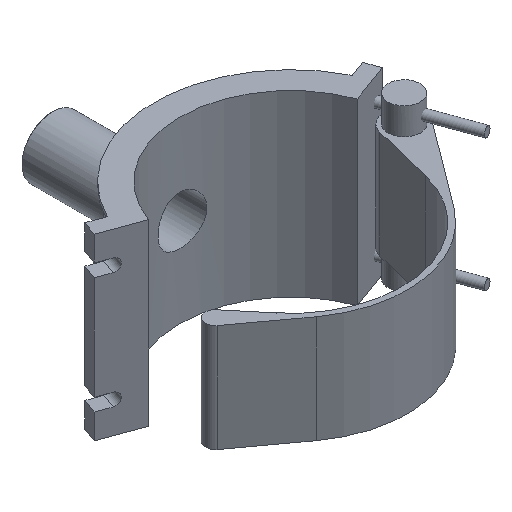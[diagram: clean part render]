
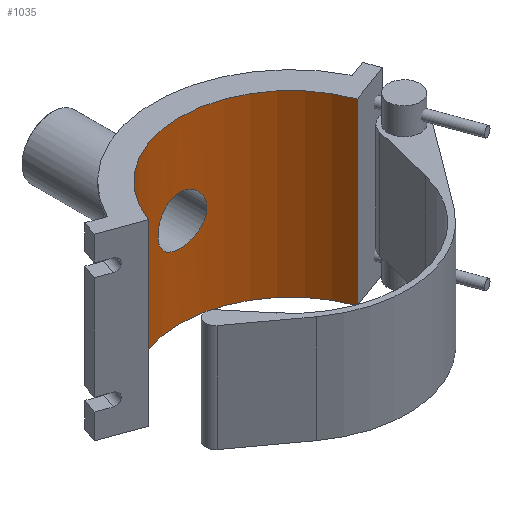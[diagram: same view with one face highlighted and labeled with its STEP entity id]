
A CAD part, isometric view. The second image highlights one B-rep face of the part: STEP entity #1035.
In plain terms, the highlighted cylindrical face has radius 109.35 mm (diameter 218.7 mm), a partial arc.
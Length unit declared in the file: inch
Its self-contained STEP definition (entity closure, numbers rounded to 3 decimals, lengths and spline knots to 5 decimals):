
#28=FACE_BOUND('',#177,.T.);
#45=B_SPLINE_CURVE_WITH_KNOTS('',3,(#1814,#1815,#1816,#1817,#1818,#1819,
#1820,#1821,#1822,#1823,#1824,#1825,#1826,#1827,#1828,#1829,#1830,#1831,
#1832,#1833,#1834,#1835,#1836,#1837,#1838,#1839,#1840,#1841,#1842,#1843,
#1844,#1845,#1846,#1847,#1848,#1849,#1850,#1851,#1852,#1853,#1854,#1855,
#1856,#1857,#1858,#1859,#1860,#1861,#1862,#1863,#1864,#1865,#1866,#1867,
#1868,#1869,#1870,#1871,#1872,#1873,#1874,#1875,#1876,#1877,#1878,#1879),
 .UNSPECIFIED.,.T.,.F.,(4,2,2,2,2,2,2,2,2,2,2,2,2,2,2,2,2,2,2,2,2,2,2,2,
2,2,2,2,2,2,2,2,4),(0.,0.4544,0.90879,1.36319,
1.81759,2.27195,2.72631,3.18067,3.63503,
4.08939,4.54375,4.99811,5.45247,5.90687,
6.36126,6.81566,7.27006,7.72446,8.17885,
8.63325,9.08765,9.54201,9.99637,10.45073,
10.90509,11.35945,11.81381,12.26817,12.72253,
13.17693,13.63132,14.08572,14.54012),
 .UNSPECIFIED.);
#108=FACE_OUTER_BOUND('',#176,.T.);
#176=EDGE_LOOP('',(#818,#819,#820,#821));
#177=EDGE_LOOP('',(#822));
#274=LINE('',#1800,#354);
#277=LINE('',#1808,#357);
#354=VECTOR('',#1321,0.3937);
#357=VECTOR('',#1332,0.3937);
#399=CIRCLE('',#1119,4.30512);
#402=CIRCLE('',#1134,4.30512);
#479=VERTEX_POINT('',#1759);
#481=VERTEX_POINT('',#1763);
#491=VERTEX_POINT('',#1798);
#492=VERTEX_POINT('',#1807);
#493=VERTEX_POINT('',#1813);
#591=EDGE_CURVE('',#481,#479,#399,.T.);
#609=EDGE_CURVE('',#481,#491,#274,.T.);
#612=EDGE_CURVE('',#492,#479,#277,.T.);
#614=EDGE_CURVE('',#492,#491,#402,.T.);
#615=EDGE_CURVE('',#493,#493,#45,.T.);
#818=ORIENTED_EDGE('',*,*,#612,.T.);
#819=ORIENTED_EDGE('',*,*,#591,.F.);
#820=ORIENTED_EDGE('',*,*,#609,.T.);
#821=ORIENTED_EDGE('',*,*,#614,.F.);
#822=ORIENTED_EDGE('',*,*,#615,.T.);
#995=CYLINDRICAL_SURFACE('',#1135,4.30512);
#1035=ADVANCED_FACE('',(#108,#28),#995,.F.);
#1119=AXIS2_PLACEMENT_3D('',#1765,#1286,#1287);
#1134=AXIS2_PLACEMENT_3D('',#1811,#1336,#1337);
#1135=AXIS2_PLACEMENT_3D('',#1812,#1338,#1339);
#1286=DIRECTION('center_axis',(0.,0.,-1.));
#1287=DIRECTION('ref_axis',(-1.,0.,0.));
#1321=DIRECTION('',(0.,0.,-1.));
#1332=DIRECTION('',(0.,0.,1.));
#1336=DIRECTION('center_axis',(0.,0.,1.));
#1337=DIRECTION('ref_axis',(-1.,0.,0.));
#1338=DIRECTION('center_axis',(0.,0.,1.));
#1339=DIRECTION('ref_axis',(-1.,0.,0.));
#1759=CARTESIAN_POINT('',(4.04549,1.47244,3.465));
#1763=CARTESIAN_POINT('',(-4.04549,1.47244,3.465));
#1765=CARTESIAN_POINT('Origin',(0.,0.,3.465));
#1798=CARTESIAN_POINT('',(-4.04549,1.47244,-3.465));
#1800=CARTESIAN_POINT('',(-4.04549,1.47244,0.));
#1807=CARTESIAN_POINT('',(4.04549,1.47244,-3.465));
#1808=CARTESIAN_POINT('',(4.04549,1.47244,0.));
#1811=CARTESIAN_POINT('Origin',(0.,0.,-3.465));
#1812=CARTESIAN_POINT('Origin',(0.,0.,0.));
#1813=CARTESIAN_POINT('',(0.94646,4.19979,0.));
#1814=CARTESIAN_POINT('Ctrl Pts',(0.94646,4.19979,0.));
#1815=CARTESIAN_POINT('Ctrl Pts',(0.94646,4.19979,-0.05963));
#1816=CARTESIAN_POINT('Ctrl Pts',(0.94073,4.2011,-0.12124));
#1817=CARTESIAN_POINT('Ctrl Pts',(0.91668,4.20641,-0.24365));
#1818=CARTESIAN_POINT('Ctrl Pts',(0.89836,4.21041,-0.30447));
#1819=CARTESIAN_POINT('Ctrl Pts',(0.85001,4.22044,-0.421));
#1820=CARTESIAN_POINT('Ctrl Pts',(0.81993,4.22646,-0.47682));
#1821=CARTESIAN_POINT('Ctrl Pts',(0.75051,4.23934,-0.57999));
#1822=CARTESIAN_POINT('Ctrl Pts',(0.71115,4.24619,-0.62734));
#1823=CARTESIAN_POINT('Ctrl Pts',(0.62734,4.25938,-0.71115));
#1824=CARTESIAN_POINT('Ctrl Pts',(0.57999,4.26619,-0.7505));
#1825=CARTESIAN_POINT('Ctrl Pts',(0.47682,4.27895,-0.81993));
#1826=CARTESIAN_POINT('Ctrl Pts',(0.421,4.28488,-0.85001));
#1827=CARTESIAN_POINT('Ctrl Pts',(0.30446,4.29474,-0.89837));
#1828=CARTESIAN_POINT('Ctrl Pts',(0.24365,4.29865,-0.91668));
#1829=CARTESIAN_POINT('Ctrl Pts',(0.12123,4.30385,-0.94073));
#1830=CARTESIAN_POINT('Ctrl Pts',(0.05963,4.30512,-0.94646));
#1831=CARTESIAN_POINT('Ctrl Pts',(-0.05963,4.30512,
-0.94646));
#1832=CARTESIAN_POINT('Ctrl Pts',(-0.12123,4.30385,-0.94073));
#1833=CARTESIAN_POINT('Ctrl Pts',(-0.24365,4.29865,-0.91668));
#1834=CARTESIAN_POINT('Ctrl Pts',(-0.30446,4.29474,-0.89837));
#1835=CARTESIAN_POINT('Ctrl Pts',(-0.421,4.28488,-0.85001));
#1836=CARTESIAN_POINT('Ctrl Pts',(-0.47682,4.27895,-0.81993));
#1837=CARTESIAN_POINT('Ctrl Pts',(-0.57999,4.26619,-0.7505));
#1838=CARTESIAN_POINT('Ctrl Pts',(-0.62734,4.25938,-0.71115));
#1839=CARTESIAN_POINT('Ctrl Pts',(-0.71115,4.24619,-0.62734));
#1840=CARTESIAN_POINT('Ctrl Pts',(-0.75051,4.23934,-0.57999));
#1841=CARTESIAN_POINT('Ctrl Pts',(-0.81993,4.22646,-0.47682));
#1842=CARTESIAN_POINT('Ctrl Pts',(-0.85001,4.22044,-0.421));
#1843=CARTESIAN_POINT('Ctrl Pts',(-0.89836,4.21041,-0.30447));
#1844=CARTESIAN_POINT('Ctrl Pts',(-0.91668,4.20641,-0.24365));
#1845=CARTESIAN_POINT('Ctrl Pts',(-0.94073,4.2011,-0.12124));
#1846=CARTESIAN_POINT('Ctrl Pts',(-0.94646,4.19979,-0.05963));
#1847=CARTESIAN_POINT('Ctrl Pts',(-0.94646,4.19979,0.05963));
#1848=CARTESIAN_POINT('Ctrl Pts',(-0.94073,4.2011,0.12124));
#1849=CARTESIAN_POINT('Ctrl Pts',(-0.91668,4.20641,0.24365));
#1850=CARTESIAN_POINT('Ctrl Pts',(-0.89836,4.21041,0.30447));
#1851=CARTESIAN_POINT('Ctrl Pts',(-0.85001,4.22044,0.421));
#1852=CARTESIAN_POINT('Ctrl Pts',(-0.81993,4.22646,0.47682));
#1853=CARTESIAN_POINT('Ctrl Pts',(-0.75051,4.23934,0.57999));
#1854=CARTESIAN_POINT('Ctrl Pts',(-0.71115,4.24619,0.62734));
#1855=CARTESIAN_POINT('Ctrl Pts',(-0.62734,4.25938,0.71115));
#1856=CARTESIAN_POINT('Ctrl Pts',(-0.57999,4.26619,0.7505));
#1857=CARTESIAN_POINT('Ctrl Pts',(-0.47682,4.27895,0.81993));
#1858=CARTESIAN_POINT('Ctrl Pts',(-0.421,4.28488,0.85001));
#1859=CARTESIAN_POINT('Ctrl Pts',(-0.30446,4.29474,0.89837));
#1860=CARTESIAN_POINT('Ctrl Pts',(-0.24365,4.29865,0.91668));
#1861=CARTESIAN_POINT('Ctrl Pts',(-0.12123,4.30385,0.94073));
#1862=CARTESIAN_POINT('Ctrl Pts',(-0.05963,4.30512,
0.94646));
#1863=CARTESIAN_POINT('Ctrl Pts',(0.05963,4.30512,0.94646));
#1864=CARTESIAN_POINT('Ctrl Pts',(0.12123,4.30385,0.94073));
#1865=CARTESIAN_POINT('Ctrl Pts',(0.24365,4.29865,0.91668));
#1866=CARTESIAN_POINT('Ctrl Pts',(0.30446,4.29474,0.89837));
#1867=CARTESIAN_POINT('Ctrl Pts',(0.421,4.28488,0.85001));
#1868=CARTESIAN_POINT('Ctrl Pts',(0.47682,4.27895,0.81993));
#1869=CARTESIAN_POINT('Ctrl Pts',(0.57999,4.26619,0.7505));
#1870=CARTESIAN_POINT('Ctrl Pts',(0.62734,4.25938,0.71115));
#1871=CARTESIAN_POINT('Ctrl Pts',(0.71115,4.24619,0.62734));
#1872=CARTESIAN_POINT('Ctrl Pts',(0.75051,4.23934,0.57999));
#1873=CARTESIAN_POINT('Ctrl Pts',(0.81993,4.22646,0.47682));
#1874=CARTESIAN_POINT('Ctrl Pts',(0.85001,4.22044,0.421));
#1875=CARTESIAN_POINT('Ctrl Pts',(0.89836,4.21041,0.30447));
#1876=CARTESIAN_POINT('Ctrl Pts',(0.91668,4.20641,0.24365));
#1877=CARTESIAN_POINT('Ctrl Pts',(0.94073,4.2011,0.12124));
#1878=CARTESIAN_POINT('Ctrl Pts',(0.94646,4.19979,0.05963));
#1879=CARTESIAN_POINT('Ctrl Pts',(0.94646,4.19979,0.));
